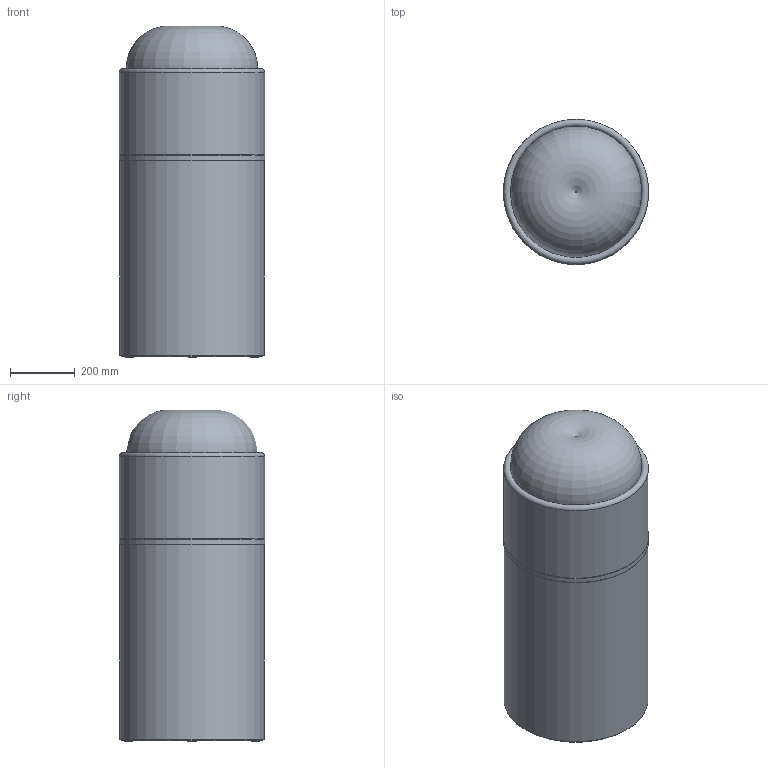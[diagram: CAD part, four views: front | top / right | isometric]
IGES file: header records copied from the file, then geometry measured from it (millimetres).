
Start section: Data from Parasolid IGES Translator 22.0.50, Copyright(c) 2006 Siemens P LM Software. All Rights Reserved.
Global section: file name: noorth-washbasin-H 88 D 45 W 45_5118.igs; native system: By Siemens PLM Incorporated; preprocessor: XPlus GENERIC/IGES 22.0.50; author: Noname; organization: Noname; date: 20240826.213501; units: metre
Bounding box: 451 x 451 x 1028.62 mm (x, y, z)
Volume: 88080464 mm3; surface area: 3556331.3 mm2
Topology: 10 solids, 10 shells, 58 faces, 84 edges, 53 vertices
Faces by surface type: plane 27, cylinder 23, torus 7, cone 1
Full cylindrical faces by diameter (mm): 25 x4, 50.25 x1, 55.712 x1, 61.989 x1, 150 x1, 200 x1, 250 x1, 417 x1, 429 x1, 429.156 x1, 437 x3, 437.156 x1, 442.06 x1, 447 x3, 449.8 x1, 451 x1
